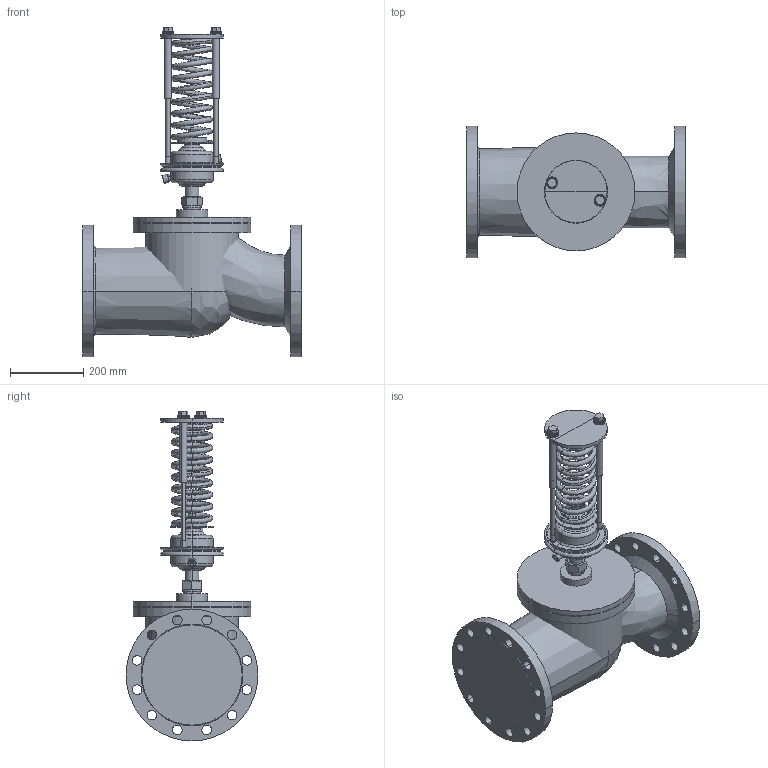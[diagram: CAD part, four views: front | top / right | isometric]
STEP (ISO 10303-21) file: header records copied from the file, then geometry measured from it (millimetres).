
FILE_DESCRIPTION(/* description */ (''),/* implementation_level */ '2;1');
FILE_NAME(/* name */ 'ETM_Регулятордавления_УРРД_НЗ_РД_DN200_PN25 0.05—0.3 МПа',/* time_stamp */ '2026-04-27T12:37:50+03:00',/* author */ (''),/* organization */ (''),/* preprocessor_version */ 'ST-DEVELOPER v20',/* originating_system */ '',/* authorisation */ '');
FILE_SCHEMA (('AP242_MANAGED_MODEL_BASED_3D_ENGINEERING_MIM_LF { 1 0 10303 442 1 1 4 }'));
Length unit declared in the file: millimetre
Products named in the file (13): TopLevelAssembly; Выдавливание; Переход; Выдавливание_
1; Переход_1; Переход_2; Переход_3; Объемная геометрия 
присоединена; Выдавливание_
2; Выдавливание_
3; Объемная геометрия 
присоединена_1; Выдавливание_
4; Пружина красная
Assembly tree (12 placements, depth 2):
  TopLevelAssembly
    Выдавливание
    Переход
    Выдавливание_
1
    Переход_1
    Переход_2
    Переход_3
    Объемная геометрия 
присоединена
    Выдавливание_
2
    Выдавливание_
3
    Объемная геометрия 
присоединена_1
    Выдавливание_
4
    Пружина красная
Bounding box: 600 x 360 x 900.85 mm (x, y, z)
Volume: 46345719 mm3; surface area: 2526523.5 mm2
Topology: 31 solids, 31 shells, 538 faces, 1101 edges, 605 vertices
Faces by surface type: plane 181, bspline 177, cylinder 170, cone 10
Entity records: 17318 total; most frequent: CARTESIAN_POINT 5461, DIRECTION 2505, ORIENTED_EDGE 2198, EDGE_CURVE 1099, AXIS2_PLACEMENT_3D 1054, CIRCLE 667, VERTEX_POINT 605, EDGE_LOOP 592
